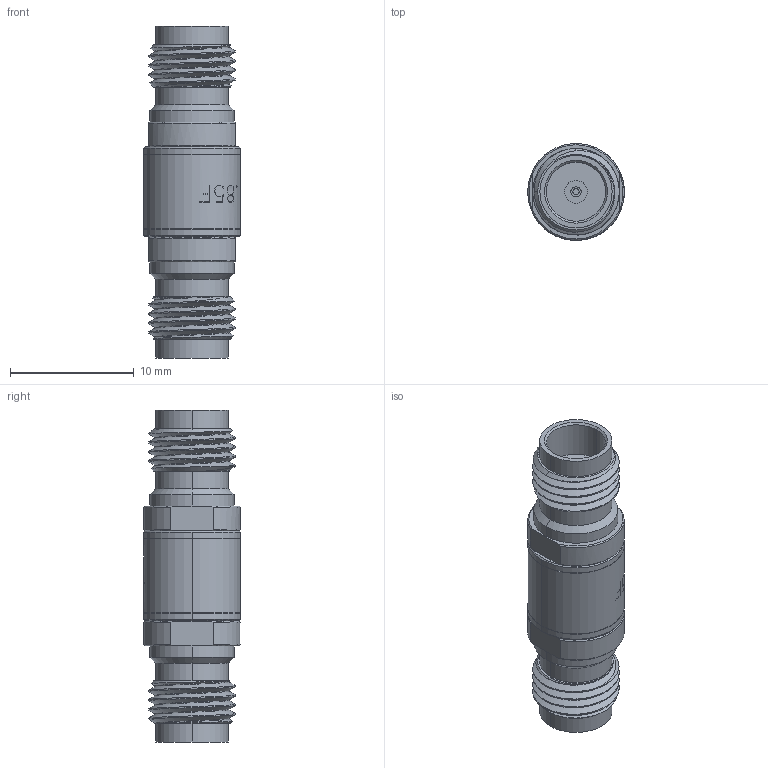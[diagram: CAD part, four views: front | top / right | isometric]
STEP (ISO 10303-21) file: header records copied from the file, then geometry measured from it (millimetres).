
FILE_DESCRIPTION (( 'STEP AP203' ), '1' );
FILE_NAME ('8128000K001-803-Cst.STEP', '2020-10-29T19:06:38', ( '' ), ( '' ), 'SwSTEP 2.0', 'SolidWorks 2019', '' );
FILE_SCHEMA (( 'CONFIG_CONTROL_DESIGN' ));
Length unit declared in the file: inch
Products named in the file (1): 8128000K001-803-Cst
Bounding box: 7.8 x 7.8 x 26.8 mm (x, y, z)
Volume: 892.1 mm3; surface area: 928.9 mm2
Topology: 1 solids, 1 shells, 377 faces, 1005 edges, 664 vertices
Faces by surface type: bspline 162, plane 107, cylinder 75, cone 33
Entity records: 15196 total; most frequent: CARTESIAN_POINT 6835, ORIENTED_EDGE 2010, DIRECTION 1238, EDGE_CURVE 1005, VERTEX_POINT 664, AXIS2_PLACEMENT_3D 416, EDGE_LOOP 411, LINE 406
